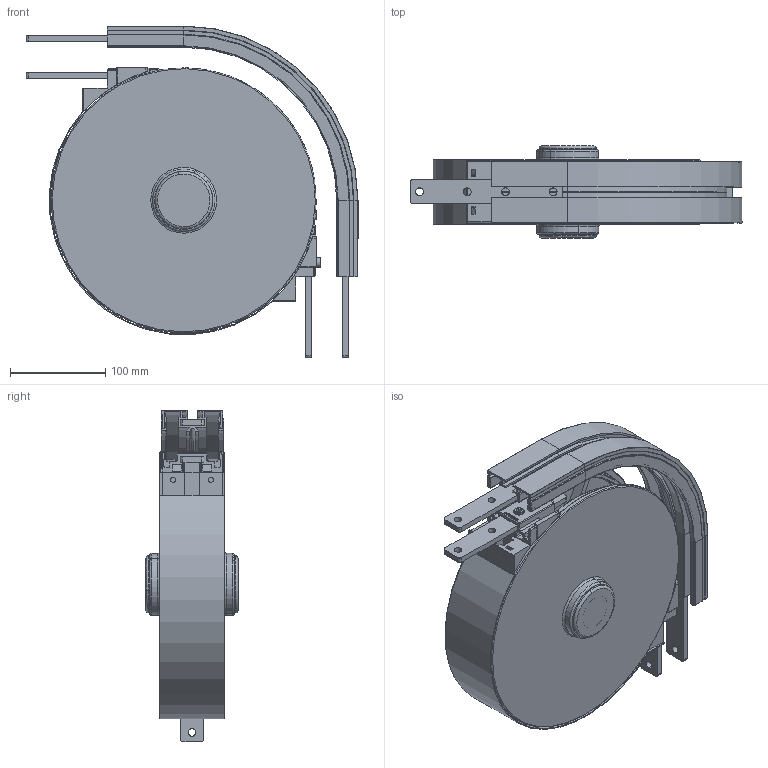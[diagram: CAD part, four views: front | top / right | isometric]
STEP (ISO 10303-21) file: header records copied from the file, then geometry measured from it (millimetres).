
FILE_DESCRIPTION (( 'STEP AP214' ), '1' );
FILE_NAME ('FSWB90R150A.STEP', '2012-03-21T15:08:23', ( 'gs' ), ( 'Microsoft' ), 'SwSTEP 2.0', 'SolidWorks 2011', '' );
FILE_SCHEMA (( 'AUTOMOTIVE_DESIGN' ));
Products named in the file (14): protection_90; WH08001-3_btm; FASR-25_180R150_90<Brut d''usinage>; WH08001-3_top; WH63003; WH63001-3; 6004ZZ; FACS-25X160-M2; M6X16 CAP SCREW; FSWB180R150-CB_90<Brut d''usinage>; WH278063; FAEC-WH; 20 ExternalCirclip; FSWB90R150A
Assembly tree (30 placements, depth 2):
  FSWB90R150A
    protection_90
    FASR-25_180R150_90<Brut d''usinage>  x2
    WH63003
    20 ExternalCirclip  x5
    M6X16 CAP SCREW  x4
    FAEC-WH  x2
    FACS-25X160-M2  x4
    6004ZZ  x4
    WH278063  x2
    WH08001-3_top
    WH63001-3  x2
    FSWB180R150-CB_90<Brut d''usinage>
    WH08001-3_btm
Bounding box: 347.7 x 96.4 x 347.7 mm (x, y, z)
Volume: 1695162.3 mm3; surface area: 776455 mm2
Topology: 30 solids, 30 shells, 1971 faces, 5001 edges, 3178 vertices
Faces by surface type: plane 856, cylinder 584, cone 244, bspline 190, torus 97
Entity records: 40298 total; most frequent: CARTESIAN_POINT 15757, ORIENTED_EDGE 5092, DIRECTION 4784, EDGE_CURVE 2546, AXIS2_PLACEMENT_3D 1642, VERTEX_POINT 1615, LINE 1500, VECTOR 1500
